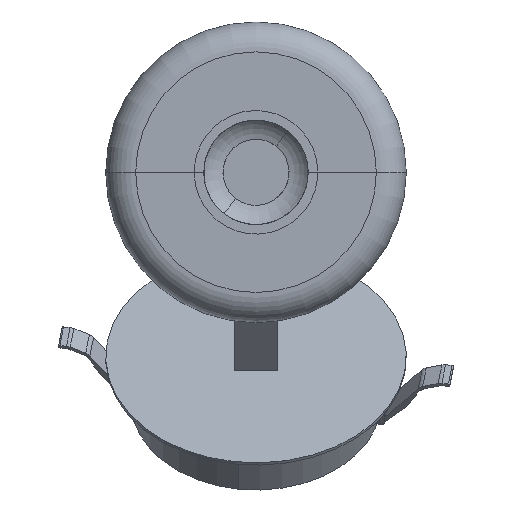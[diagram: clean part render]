
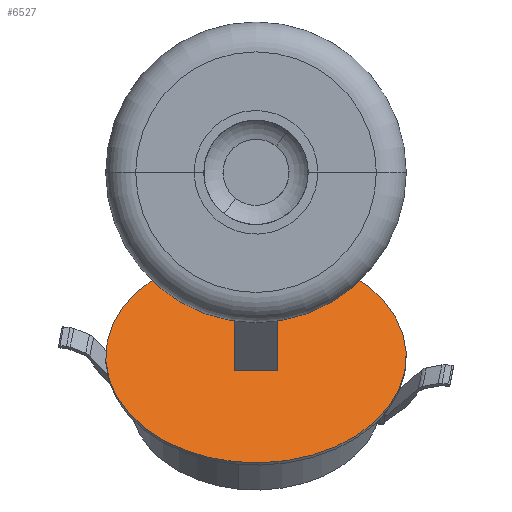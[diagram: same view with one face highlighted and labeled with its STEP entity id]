
A CAD part, top view. The second image highlights one B-rep face of the part: STEP entity #6527.
In plain terms, the highlighted planar face has unit normal (0, 0.707, 0.707) as drawn and (0, -1, 0) by its records, which use the part's own axes.
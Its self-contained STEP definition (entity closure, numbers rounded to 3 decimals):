
#666 = DIRECTION ( 'NONE',  ( 0., 1., 0. ) ) ;
#2674 = CARTESIAN_POINT ( 'NONE',  ( 0., 0., 0. ) ) ;
#4426 = DIRECTION ( 'NONE',  ( 0., 1., 0. ) ) ;
#6527 = ADVANCED_FACE ( 'NONE', ( #12818 ), #9996, .F. ) ;
#9691 = VERTEX_POINT ( 'NONE', #35425 ) ;
#9996 = PLANE ( 'NONE',  #22245 ) ;
#10311 = CARTESIAN_POINT ( 'NONE',  ( 0., 0., 45. ) ) ;
#12004 = ORIENTED_EDGE ( 'NONE', *, *, #35297, .F. ) ;
#12020 = DIRECTION ( 'NONE',  ( 0., 0., 1. ) ) ;
#12818 = FACE_OUTER_BOUND ( 'NONE', #33689, .T. ) ;
#12967 = DIRECTION ( 'NONE',  ( 0., 1., 0. ) ) ;
#15777 = DIRECTION ( 'NONE',  ( 0., 0., 1. ) ) ;
#15949 = CARTESIAN_POINT ( 'NONE',  ( 0., 0., 0. ) ) ;
#21418 = VERTEX_POINT ( 'NONE', #10311 ) ;
#22245 = AXIS2_PLACEMENT_3D ( 'NONE', #15949, #4426, #15777 ) ;
#22734 = CIRCLE ( 'NONE', #23906, 45. ) ;
#23906 = AXIS2_PLACEMENT_3D ( 'NONE', #28936, #666, #12020 ) ;
#25821 = ORIENTED_EDGE ( 'NONE', *, *, #31965, .F. ) ;
#28936 = CARTESIAN_POINT ( 'NONE',  ( 0., 0., 0. ) ) ;
#31556 = CIRCLE ( 'NONE', #34523, 45. ) ;
#31965 = EDGE_CURVE ( 'NONE', #9691, #21418, #22734, .T. ) ;
#33064 = DIRECTION ( 'NONE',  ( 0., 0., 1. ) ) ;
#33689 = EDGE_LOOP ( 'NONE', ( #25821, #12004 ) ) ;
#34523 = AXIS2_PLACEMENT_3D ( 'NONE', #2674, #12967, #33064 ) ;
#35297 = EDGE_CURVE ( 'NONE', #21418, #9691, #31556, .T. ) ;
#35425 = CARTESIAN_POINT ( 'NONE',  ( 0., 0., -45. ) ) ;
